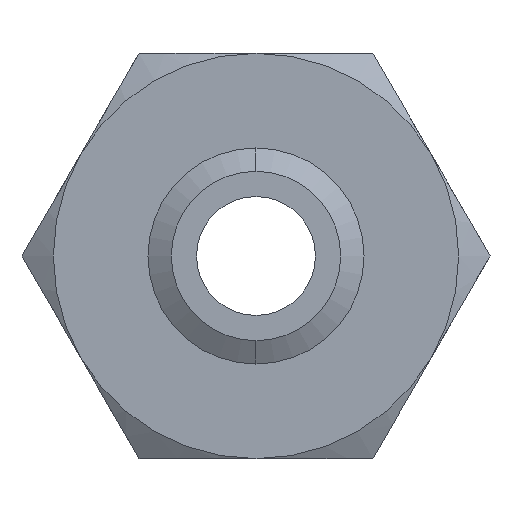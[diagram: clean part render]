
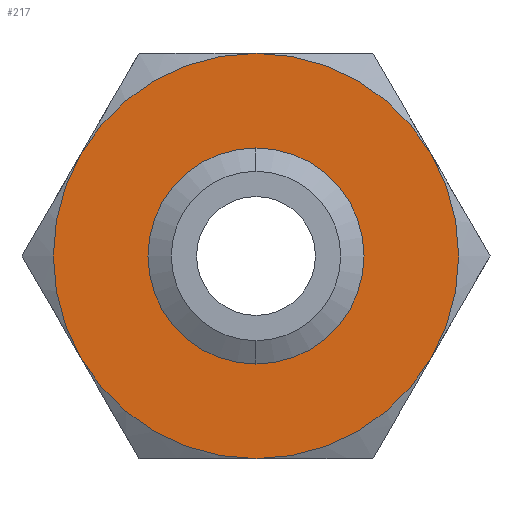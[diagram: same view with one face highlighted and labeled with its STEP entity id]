
A CAD part, front view. The second image highlights one B-rep face of the part: STEP entity #217.
In plain terms, the highlighted planar face has unit normal (0, -1, 0).
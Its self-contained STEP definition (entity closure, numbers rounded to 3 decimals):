
#148 = EDGE_LOOP ( 'NONE', ( #214, #222, #224, #152, #1958, #1963 ) ) ;
#150 = VERTEX_POINT ( 'NONE', #793 ) ;
#152 = ORIENTED_EDGE ( 'NONE', *, *, #220, .F. ) ;
#153 = VERTEX_POINT ( 'NONE', #792 ) ;
#211 = EDGE_CURVE ( 'NONE', #221, #2015, #933, .T. ) ;
#214 = ORIENTED_EDGE ( 'NONE', *, *, #2013, .F. ) ;
#215 = VERTEX_POINT ( 'NONE', #927 ) ;
#217 = ADVANCED_FACE ( 'NONE', ( #926, #925 ), #924, .F. ) ;
#220 = EDGE_CURVE ( 'NONE', #153, #221, #915, .T. ) ;
#221 = VERTEX_POINT ( 'NONE', #910 ) ;
#222 = ORIENTED_EDGE ( 'NONE', *, *, #225, .F. ) ;
#224 = ORIENTED_EDGE ( 'NONE', *, *, #211, .F. ) ;
#225 = EDGE_CURVE ( 'NONE', #2015, #150, #967, .T. ) ;
#425 = EDGE_CURVE ( 'NONE', #426, #427, #1262, .T. ) ;
#426 = VERTEX_POINT ( 'NONE', #1257 ) ;
#427 = VERTEX_POINT ( 'NONE', #1256 ) ;
#792 = CARTESIAN_POINT ( 'NONE',  ( 0., 0., -37.5 ) ) ;
#793 = CARTESIAN_POINT ( 'NONE',  ( 0., 0., 37.5 ) ) ;
#910 = CARTESIAN_POINT ( 'NONE',  ( -32.476, 0., -18.75 ) ) ;
#911 = DIRECTION ( 'NONE',  ( 0., 0., 1. ) ) ;
#912 = DIRECTION ( 'NONE',  ( 0., 1., 0. ) ) ;
#913 = CARTESIAN_POINT ( 'NONE',  ( 0., 0., 0. ) ) ;
#914 = AXIS2_PLACEMENT_3D ( 'NONE', #913, #912, #911 ) ;
#915 = CIRCLE ( 'NONE', #914, 37.5 ) ;
#919 = DIRECTION ( 'NONE',  ( 0., 0., 1. ) ) ;
#920 = DIRECTION ( 'NONE',  ( 0., 1., 0. ) ) ;
#921 = CARTESIAN_POINT ( 'NONE',  ( 21.651, 0., -37.5 ) ) ;
#923 = AXIS2_PLACEMENT_3D ( 'NONE', #921, #920, #919 ) ;
#924 = PLANE ( 'NONE',  #923 ) ;
#925 = FACE_BOUND ( 'NONE', #1957, .T. ) ;
#926 = FACE_OUTER_BOUND ( 'NONE', #148, .T. ) ;
#927 = CARTESIAN_POINT ( 'NONE',  ( 32.476, 0., 18.75 ) ) ;
#929 = DIRECTION ( 'NONE',  ( 0., 0., 1. ) ) ;
#930 = DIRECTION ( 'NONE',  ( 0., 1., 0. ) ) ;
#931 = CARTESIAN_POINT ( 'NONE',  ( 0., 0., 0. ) ) ;
#932 = AXIS2_PLACEMENT_3D ( 'NONE', #931, #930, #929 ) ;
#933 = CIRCLE ( 'NONE', #932, 37.5 ) ;
#963 = DIRECTION ( 'NONE',  ( 0., 0., 1. ) ) ;
#964 = DIRECTION ( 'NONE',  ( 0., 1., 0. ) ) ;
#965 = CARTESIAN_POINT ( 'NONE',  ( 0., 0., 0. ) ) ;
#966 = AXIS2_PLACEMENT_3D ( 'NONE', #965, #964, #963 ) ;
#967 = CIRCLE ( 'NONE', #966, 37.5 ) ;
#1256 = CARTESIAN_POINT ( 'NONE',  ( 0., 0., 15.67 ) ) ;
#1257 = CARTESIAN_POINT ( 'NONE',  ( 0., 0., -15.67 ) ) ;
#1258 = DIRECTION ( 'NONE',  ( 0., 0., -1. ) ) ;
#1259 = DIRECTION ( 'NONE',  ( 0., -1., 0. ) ) ;
#1260 = CARTESIAN_POINT ( 'NONE',  ( 0., 0., 0. ) ) ;
#1261 = AXIS2_PLACEMENT_3D ( 'NONE', #1260, #1259, #1258 ) ;
#1262 = CIRCLE ( 'NONE', #1261, 15.67 ) ;
#1497 = CARTESIAN_POINT ( 'NONE',  ( 0., 0., 0. ) ) ;
#1528 = CARTESIAN_POINT ( 'NONE',  ( 0., 0., 0. ) ) ;
#1545 = DIRECTION ( 'NONE',  ( 0., 0., 1. ) ) ;
#1546 = DIRECTION ( 'NONE',  ( 0., 1., 0. ) ) ;
#1547 = CARTESIAN_POINT ( 'NONE',  ( 0., 0., 0. ) ) ;
#1548 = AXIS2_PLACEMENT_3D ( 'NONE', #1547, #1546, #1545 ) ;
#1549 = CIRCLE ( 'NONE', #1548, 37.5 ) ;
#1552 = DIRECTION ( 'NONE',  ( 0., 0., 1. ) ) ;
#1553 = DIRECTION ( 'NONE',  ( 0., 1., 0. ) ) ;
#1554 = AXIS2_PLACEMENT_3D ( 'NONE', #1497, #1553, #1552 ) ;
#1555 = CIRCLE ( 'NONE', #1554, 37.5 ) ;
#1581 = DIRECTION ( 'NONE',  ( 0., 0., -1. ) ) ;
#1582 = DIRECTION ( 'NONE',  ( 0., -1., 0. ) ) ;
#1583 = AXIS2_PLACEMENT_3D ( 'NONE', #1528, #1582, #1581 ) ;
#1584 = CIRCLE ( 'NONE', #1583, 15.67 ) ;
#1619 = CIRCLE ( 'NONE', #1666, 37.5 ) ;
#1662 = CARTESIAN_POINT ( 'NONE',  ( -32.476, 0., 18.75 ) ) ;
#1663 = DIRECTION ( 'NONE',  ( 0., 0., 1. ) ) ;
#1664 = DIRECTION ( 'NONE',  ( 0., 1., 0. ) ) ;
#1665 = CARTESIAN_POINT ( 'NONE',  ( 0., 0., 0. ) ) ;
#1666 = AXIS2_PLACEMENT_3D ( 'NONE', #1665, #1664, #1663 ) ;
#1673 = CARTESIAN_POINT ( 'NONE',  ( 32.476, 0., -18.75 ) ) ;
#1956 = EDGE_CURVE ( 'NONE', #2014, #153, #1555, .T. ) ;
#1957 = EDGE_LOOP ( 'NONE', ( #1962, #1973 ) ) ;
#1958 = ORIENTED_EDGE ( 'NONE', *, *, #1956, .F. ) ;
#1961 = EDGE_CURVE ( 'NONE', #215, #2014, #1549, .T. ) ;
#1962 = ORIENTED_EDGE ( 'NONE', *, *, #425, .F. ) ;
#1963 = ORIENTED_EDGE ( 'NONE', *, *, #1961, .F. ) ;
#1973 = ORIENTED_EDGE ( 'NONE', *, *, #1977, .F. ) ;
#1977 = EDGE_CURVE ( 'NONE', #427, #426, #1584, .T. ) ;
#2013 = EDGE_CURVE ( 'NONE', #150, #215, #1619, .T. ) ;
#2014 = VERTEX_POINT ( 'NONE', #1673 ) ;
#2015 = VERTEX_POINT ( 'NONE', #1662 ) ;
